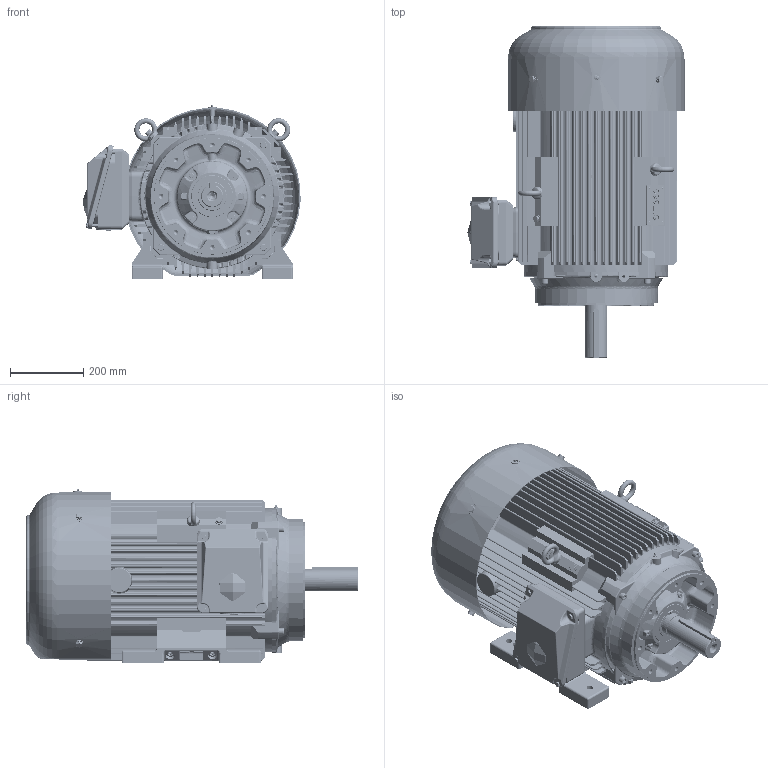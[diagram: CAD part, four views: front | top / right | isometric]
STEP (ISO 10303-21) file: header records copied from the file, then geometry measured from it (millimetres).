
FILE_DESCRIPTION(/* description */ ('Unknown','CAx-IF Rec.Pracs.---Representation and Presentation of Product Manufacturing Information (PMI)---4.0---2014-10-13','CAx-IF Rec.Pracs.---3D Tessellated Geometry---0.4---2014-09-14','2;1'),/* implementation_level */ '2;1');
FILE_NAME(/* name */ 'Silnik NEMA SIE360TCL4_6 - do klienta',/* time_stamp */ '2024-07-08T08:36:29+02:00',/* author */ ('Unknown'),/* organization */ ('Unknown'),/* preprocessor_version */ 'ST-DEVELOPER v16.7',/* originating_system */ 'DEX',/* authorisation */ $);
FILE_SCHEMA (('AP242_MANAGED_MODEL_BASED_3D_ENGINEERING_MIM_LF { 1 0 10303 442 20130219 1 4 }'));
Length unit declared in the file: millimetre
Products named in the file (1): Silnik NEMA SIE360TCL4_6 - do klienta
Bounding box: 592.5 x 904.9 x 473 mm (x, y, z)
Volume: 43354377 mm3; surface area: 5840810.6 mm2
Topology: 1 solids, 39 shells, 9194 faces, 24784 edges, 15482 vertices
Faces by surface type: plane 5226, cylinder 1837, bspline 902, torus 637, cone 344, sphere 248
Full cylindrical faces by diameter (mm): 1.6 x2, 2.5 x2, 3 x10, 3.5 x4, 4.134 x2, 4.917 x3, 5 x4, 6 x5, 6.3 x1, 6.4 x2, 6.466 x8, 6.647 x12, 8 x26, 8.376 x6, 8.5 x1, 8.917 x2, 9 x12, 9.853 x4, 10 x22, 10.106 x9, 10.5 x5, 11.63 x1, 12 x12, 13 x10, 13.376 x8, 13.546 x4, 13.835 x8, 14 x6, 14.63 x1, 16 x8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
Entity records: 386894 total; most frequent: CARTESIAN_POINT 98999, ORIENTED_EDGE 47094, DIRECTION 43737, EDGE_CURVE 23547, VERTEX_POINT 15105, LINE 14893, VECTOR 14893, AXIS2_PLACEMENT_3D 14422
